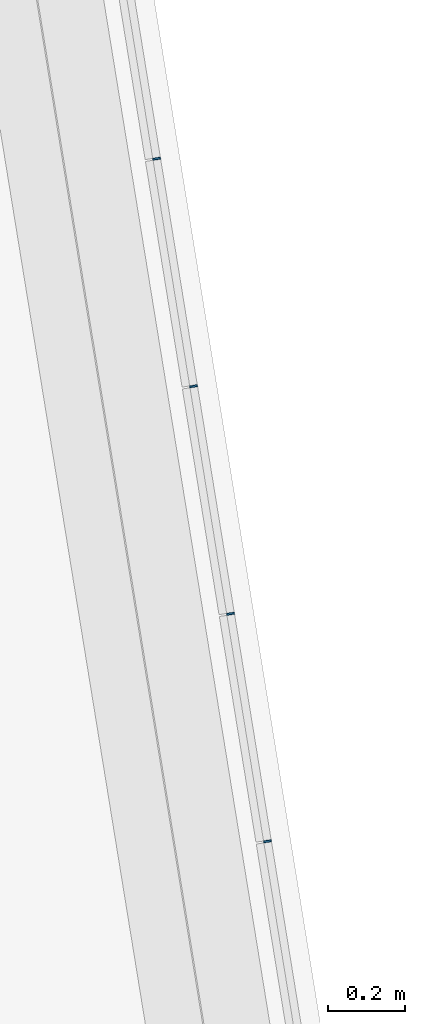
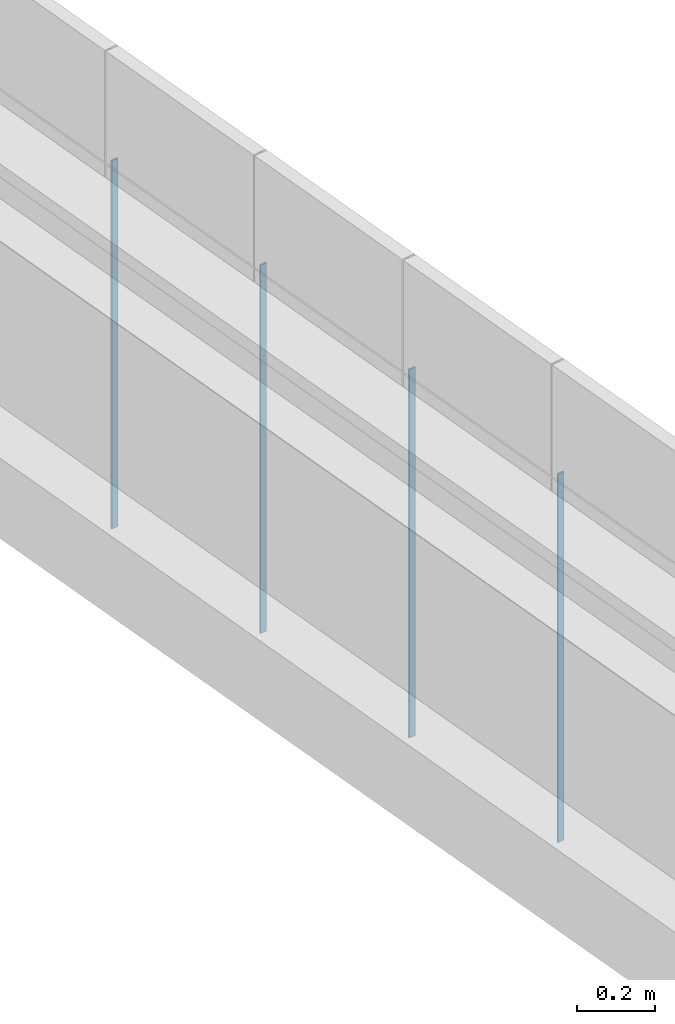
# One storey, part 2 of 38: 4 members, 1 element without a shape of its own.
"""IFC2X3 building model written with IfcOpenShell, lengths in millimetres."""

from ifc_helpers import new_model, entity, si_unit, converted_unit, derived_unit, direction, frame, origin, origin_with_axes, origin_2d_with_axis, place, context, subcontext, project, spatial, rectangle, extrude, source, transform, mapped, material, type_object, element, aggregate, save


model = new_model("IFC2X3")

# Units and contexts
model_context = context("Model", 3, precision=0.01, world=origin(), true_north=direction((6.12323399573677e-17, 1.0)))
plan_context = context("Plan", 3, precision=1e-05, world=origin_with_axes())
body_context = subcontext(model_context, "Body", "Model", "MODEL_VIEW")
ifc_project = project(units=[converted_unit("PLANEANGLEUNIT", "DEGREE", entity("IfcPositiveLengthMeasure", 0.0174532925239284), si_unit("PLANEANGLEUNIT", "RADIAN"), dimensions=[0, 0, 0, 0, 0, 0, 0]), si_unit("AREAUNIT", "SQUARE_METRE"), si_unit("LENGTHUNIT", "METRE", prefix="MILLI"), si_unit("MASSUNIT", "GRAM", prefix="KILO"), si_unit("POWERUNIT", "WATT"), si_unit("PRESSUREUNIT", "PASCAL", prefix="KILO"), si_unit("FORCEUNIT", "NEWTON", prefix="KILO"), si_unit("ELECTRICVOLTAGEUNIT", "VOLT"), si_unit("ELECTRICCURRENTUNIT", "AMPERE"), si_unit("THERMODYNAMICTEMPERATUREUNIT", "DEGREE_CELSIUS"), si_unit("TIMEUNIT", "SECOND"), si_unit("VOLUMEUNIT", "CUBIC_METRE"), derived_unit("LINEARVELOCITYUNIT", [(si_unit("LENGTHUNIT", "METRE"), 1), (si_unit("TIMEUNIT", "SECOND"), -1)]), derived_unit("VOLUMETRICFLOWRATEUNIT", [(si_unit("VOLUMEUNIT", "CUBIC_METRE"), 1), (si_unit("TIMEUNIT", "SECOND"), -1)]), derived_unit("THERMALTRANSMITTANCEUNIT", [(si_unit("POWERUNIT", "WATT"), 1), (si_unit("THERMODYNAMICTEMPERATUREUNIT", "KELVIN"), -1), (si_unit("AREAUNIT", "SQUARE_METRE"), -1)]), derived_unit("SOUNDPRESSUREUNIT", [(si_unit("PRESSUREUNIT", "PASCAL"), 1)])], contexts=[model_context, plan_context])

# Site, building, storey
site_placement = place(None, frame((-0.00071070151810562, 0.00438415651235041, 0.0), z_axis=(0.0, 0.0, 1.0), x_axis=(-0.160236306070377, 0.987078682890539, 0.0)))
site = spatial("IfcSite", under=ifc_project, at=site_placement, Name="Default", CompositionType="ELEMENT")
building_placement = place(site_placement, origin_with_axes())
building = spatial("IfcBuilding", under=site, at=building_placement, Name="TOO", CompositionType="ELEMENT")
storey_placement = place(building_placement, frame((0.0, 0.0, 50999.9999999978), z_axis=(0.0, 0.0, 1.0), x_axis=(1.0, 0.0, 0.0)))
storey = spatial("IfcBuildingStorey", under=building, at=storey_placement, Name="Nivå D-H01", CompositionType="ELEMENT", Elevation=50999.9999999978)

# Curtain wall, members
curtain_wall_type = type_object("IfcCurtainWallType", Name="Curtain Wall:Curtain Wall Standard (Bruk kun denne)", PredefinedType="NOTDEFINED")
curtain_wall_placement = place(storey_placement, frame((0.0, 0.0, -50999.9999999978), z_axis=(0.0, 0.0, 1.0), x_axis=(1.0, 0.0, 0.0)))
curtain_wall = element("IfcCurtainWall", 1, at=curtain_wall_placement, inside=storey, type_object=curtain_wall_type, Name="Curtain Wall:Curtain Wall Standard (Bruk kun denne)", ObjectType="Curtain Wall:Curtain Wall Standard (Bruk kun denne)")
ifc_material = material(Name="Rubber")
member_type = type_object("IfcMemberType", Name="Rectangular Mullion:A246 - Fuge 5mm L09", PredefinedType="MULLION", material=ifc_material)
shared_shape = source(origin(), body_context, "Body", "SweptSolid", [
    extrude(rectangle(XDim=5.0, YDim=20.0, at=origin_2d_with_axis()), frame((0.0, 10.0, -1147.50000000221), z_axis=(0.0, 0.0, 1.0), x_axis=(-1.0, 0.0, 0.0)), (0.0, 0.0, 1.0), 1147.50000000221),
])
member_1_placement = place(curtain_wall_placement, frame((775377.619644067, -604232.480498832, 53702.4999999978), z_axis=(0.0, 0.0, -1.0), x_axis=(-1.0, 0.0, 0.0)))
member_1 = element("IfcMember", 2, at=member_1_placement, type_object=member_type, material=ifc_material, Name="Rectangular Mullion:A246 - Fuge 5mm L09", ObjectType="Rectangular Mullion:A246 - Fuge 5mm L09", context=body_context, shape_type="MappedRepresentation", body=[
    mapped(shared_shape, transform((0.0, 0.0, 0.0), scale=1.0)),
])
member_2_placement = place(curtain_wall_placement, frame((774777.619644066, -604232.480498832, 53702.4999999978), z_axis=(0.0, 0.0, -1.0), x_axis=(-1.0, 0.0, 0.0)))
member_2 = element("IfcMember", 3, at=member_2_placement, type_object=member_type, material=ifc_material, Name="Rectangular Mullion:A246 - Fuge 5mm L09", ObjectType="Rectangular Mullion:A246 - Fuge 5mm L09", context=body_context, shape_type="MappedRepresentation", body=[
    mapped(shared_shape, transform((0.0, 0.0, 0.0), scale=1.0)),
])
member_3_placement = place(curtain_wall_placement, frame((774177.619644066, -604232.480498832, 53702.4999999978), z_axis=(0.0, 0.0, -1.0), x_axis=(-1.0, 0.0, 0.0)))
member_3 = element("IfcMember", 4, at=member_3_placement, type_object=member_type, material=ifc_material, Name="Rectangular Mullion:A246 - Fuge 5mm L09", ObjectType="Rectangular Mullion:A246 - Fuge 5mm L09", context=body_context, shape_type="MappedRepresentation", body=[
    mapped(shared_shape, transform((0.0, 0.0, 0.0), scale=1.0)),
])
member_4_placement = place(curtain_wall_placement, frame((775977.619644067, -604232.480498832, 53702.4999999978), z_axis=(0.0, 0.0, -1.0), x_axis=(-1.0, 0.0, 0.0)))
member_4 = element("IfcMember", 5, at=member_4_placement, type_object=member_type, material=ifc_material, Name="Rectangular Mullion:A246 - Fuge 5mm L09", ObjectType="Rectangular Mullion:A246 - Fuge 5mm L09", context=body_context, shape_type="MappedRepresentation", body=[
    mapped(shared_shape, transform((0.0, 0.0, 0.0), scale=1.0)),
])
aggregate(curtain_wall, [member_1, member_2, member_3, member_4])

save(model, "model.ifc")
